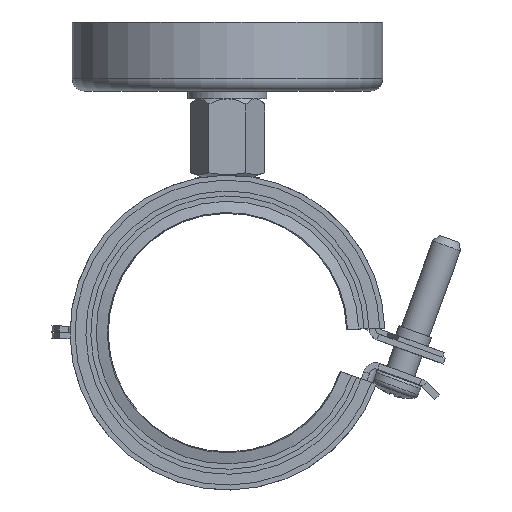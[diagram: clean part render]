
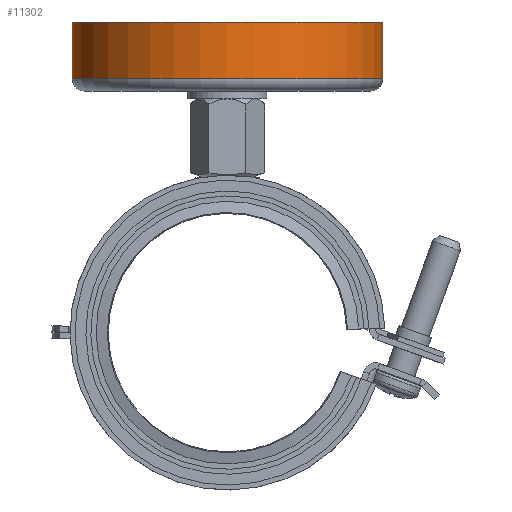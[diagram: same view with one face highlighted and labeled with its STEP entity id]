
A CAD part, front view. The second image highlights one B-rep face of the part: STEP entity #11302.
In plain terms, the highlighted cylindrical face has radius 31.5 mm (diameter 63 mm), a full revolution.
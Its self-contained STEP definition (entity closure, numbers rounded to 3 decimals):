
#1154=FACE_OUTER_BOUND('',#1768,.T.);
#1768=EDGE_LOOP('',(#9972,#9973,#9974,#9975,#9976));
#2312=CIRCLE('',#12435,31.5);
#2315=CIRCLE('',#12438,31.5);
#2316=CIRCLE('',#12440,31.5);
#3294=LINE('',#20553,#4176);
#4176=VECTOR('',#15540,31.5);
#5185=VERTEX_POINT('',#20543);
#5186=VERTEX_POINT('',#20544);
#5188=VERTEX_POINT('',#20551);
#6781=EDGE_CURVE('',#5185,#5186,#2312,.T.);
#6784=EDGE_CURVE('',#5186,#5185,#2315,.T.);
#6785=EDGE_CURVE('',#5188,#5188,#2316,.T.);
#6786=EDGE_CURVE('',#5188,#5185,#3294,.T.);
#9972=ORIENTED_EDGE('',*,*,#6785,.F.);
#9973=ORIENTED_EDGE('',*,*,#6786,.T.);
#9974=ORIENTED_EDGE('',*,*,#6784,.F.);
#9975=ORIENTED_EDGE('',*,*,#6781,.F.);
#9976=ORIENTED_EDGE('',*,*,#6786,.F.);
#10132=CYLINDRICAL_SURFACE('',#12439,31.5);
#11302=ADVANCED_FACE('',(#1154),#10132,.T.);
#12435=AXIS2_PLACEMENT_3D('',#20545,#15528,#15529);
#12438=AXIS2_PLACEMENT_3D('',#20549,#15534,#15535);
#12439=AXIS2_PLACEMENT_3D('',#20550,#15536,#15537);
#12440=AXIS2_PLACEMENT_3D('',#20552,#15538,#15539);
#15528=DIRECTION('center_axis',(0.,0.,
-1.));
#15529=DIRECTION('ref_axis',(1.,0.,0.));
#15534=DIRECTION('center_axis',(0.,0.,
-1.));
#15535=DIRECTION('ref_axis',(1.,0.,0.));
#15536=DIRECTION('center_axis',(0.,0.,
1.));
#15537=DIRECTION('ref_axis',(-1.,0.,0.));
#15538=DIRECTION('center_axis',(0.,0.,
1.));
#15539=DIRECTION('ref_axis',(1.,0.,0.));
#15540=DIRECTION('',(0.,0.,-1.));
#20543=CARTESIAN_POINT('',(31.5,-130.,-11.5));
#20544=CARTESIAN_POINT('',(0.,-98.5,-11.5));
#20545=CARTESIAN_POINT('Origin',(0.,-130.,-11.5));
#20549=CARTESIAN_POINT('Origin',(0.,-130.,-11.5));
#20550=CARTESIAN_POINT('Origin',(0.,-130.,-7.));
#20551=CARTESIAN_POINT('',(31.5,-130.,0.));
#20552=CARTESIAN_POINT('Origin',(0.,-130.,0.));
#20553=CARTESIAN_POINT('',(31.5,-130.,-7.));
